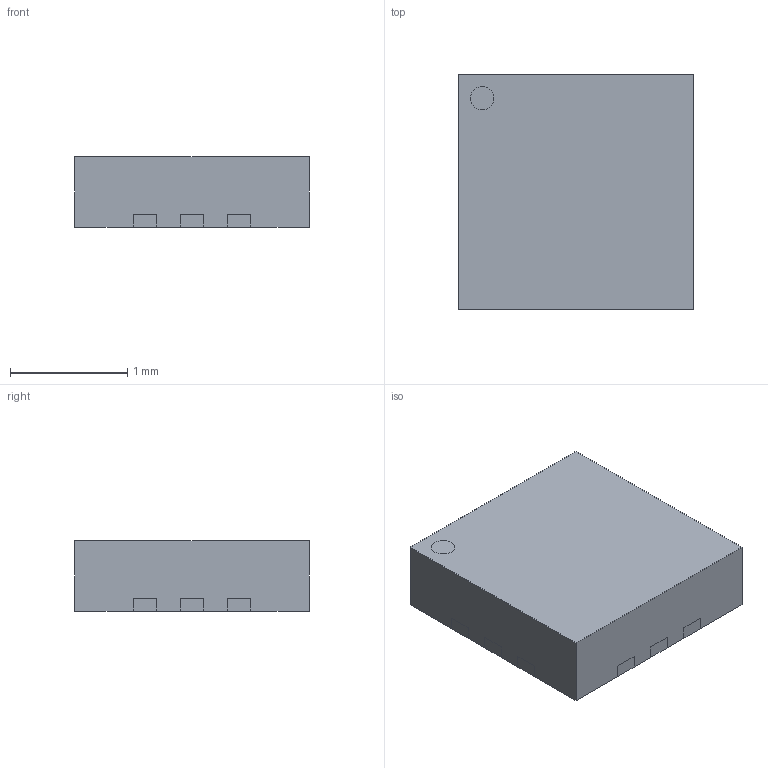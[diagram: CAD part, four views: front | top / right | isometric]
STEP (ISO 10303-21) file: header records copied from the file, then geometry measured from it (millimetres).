
/*
Copyright (C) 2026, KiCAD
This work is licensed under the
[Creative Commons CC-BY-SA 4.0 License](https://creativecommons.org/licenses/by-sa/4.0/legalcode),
with the following exception:
To the extent that the creation of electronic designs that use 'Licensed Material' can be
considered to be 'Adapted Material', then the copyright holder waives article 3 of the license
with respect to these designs and any generated files which use data provided as part of the
'Licensed Material'.
You are free to use the library data in your own projects without the obligation to share your
project files under this or any other license agreement. However, if you wish to distribute
these libraries, or parts thereof (including in modified form) as a collection then the exception
above does not apply. Please refer to
https://gitlab.com/kicad/libraries/kicad-packages3D/-/blob/master/LICENSE.md for further clarification
of the exception.
Disclaimer of Warranties and Limitation of Liability.
These libraries are provided in the hope that they will be useful, but are provided without warranty of any kind, express or implied.
*/
FILE_DESCRIPTION(/* description */ ('model of UQFN-12-1EP_2x2mm_P0.4mm_EP1.1x1.1mm'),/* implementation_level */ '2;1');
FILE_NAME(/* name */ 'UQFN-12-1EP_2x2mm_P0.4mm_EP1.1x1.1mm.step',/* time_stamp */ '1970-01-01T00:00:00',/* author */ ('KiCAD','kicad'),/* organization */ ('OCCT'),/* preprocessor_version */ '',/* originating_system */ 'KiCAD',/* authorisation */ '');
FILE_SCHEMA(('AUTOMOTIVE_DESIGN { 1 0 10303 214 1 1 1 1 }'));
Length unit declared in the file: millimetre
Products named in the file (1): UQFN-12-1EP_2x2mm_P0.4mm_EP1.1x1.1mm
Bounding box: 2 x 2 x 0.6 mm (x, y, z)
Volume: 2.4 mm3; surface area: 12.8 mm2
Topology: 1 solids, 1 shells, 32 faces, 113 edges, 85 vertices
Faces by surface type: plane 32
Entity records: 894 total; most frequent: ORIENTED_EDGE 196, EDGE_CURVE 113, CARTESIAN_POINT 112, LINE 88, VERTEX_POINT 85, AXIS2_PLACEMENT_3D 46, FACE_BOUND 34, EDGE_LOOP 34
